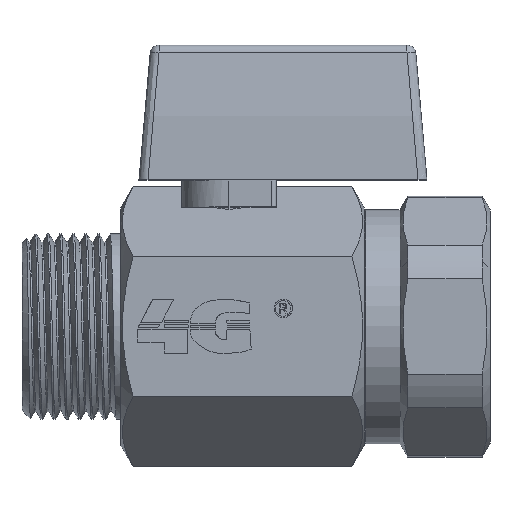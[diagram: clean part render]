
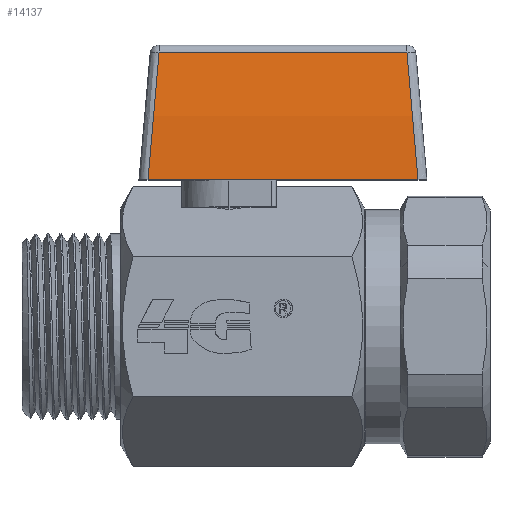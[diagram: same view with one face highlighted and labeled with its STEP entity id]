
A CAD part, top view. The second image highlights one B-rep face of the part: STEP entity #14137.
In plain terms, the highlighted cylindrical face has radius 80 mm (diameter 160 mm), a partial arc.
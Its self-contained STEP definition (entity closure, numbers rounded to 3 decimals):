
#11701=DIRECTION('',(-1.,0.,0.));
#11702=VECTOR('',#11701,29.992);
#11703=CARTESIAN_POINT('',(20.996,16.29,5.75));
#11704=LINE('',#11703,#11702);
#12472=CARTESIAN_POINT('',(-8.996,16.29,
5.75));
#12473=CARTESIAN_POINT('',(-8.894,17.478,
5.75));
#12474=CARTESIAN_POINT('',(-8.688,19.853,
5.697));
#12475=CARTESIAN_POINT('',(-8.381,23.409,
5.459));
#12476=CARTESIAN_POINT('',(-8.075,26.951,
5.063));
#12477=CARTESIAN_POINT('',(-7.872,29.298,
4.694));
#12478=CARTESIAN_POINT('',(-7.771,30.467,
4.484));
#12604=CARTESIAN_POINT('',(20.996,16.29,5.75));
#12605=CARTESIAN_POINT('',(20.894,17.478,5.75));
#12606=CARTESIAN_POINT('',(20.688,19.853,5.697));
#12607=CARTESIAN_POINT('',(20.381,23.409,5.459));
#12608=CARTESIAN_POINT('',(20.075,26.951,5.063));
#12609=CARTESIAN_POINT('',(19.872,29.298,4.694));
#12610=CARTESIAN_POINT('',(19.771,30.467,4.484));
#12646=DIRECTION('',(-1.,0.,0.));
#12647=VECTOR('',#12646,27.543);
#12648=CARTESIAN_POINT('',(19.771,30.467,4.484));
#12649=LINE('',#12648,#12647);
#12843=VERTEX_POINT('',#12472);
#12844=VERTEX_POINT('',#12478);
#12849=CARTESIAN_POINT('',(19.771,30.467,4.484));
#12850=VERTEX_POINT('',#12849);
#12853=VERTEX_POINT('',#12604);
#14123=CARTESIAN_POINT('',(25.2,16.29,-74.25));
#14124=DIRECTION('',(-1.,0.,0.));
#14125=DIRECTION('',(0.,0.,-1.));
#14126=AXIS2_PLACEMENT_3D('',#14123,#14124,#14125);
#14127=CYLINDRICAL_SURFACE('',#14126,80.);
#14129=ORIENTED_EDGE('',*,*,#14128,.T.);
#14131=ORIENTED_EDGE('',*,*,#14130,.F.);
#14133=ORIENTED_EDGE('',*,*,#14132,.F.);
#14134=ORIENTED_EDGE('',*,*,#12960,.T.);
#14135=EDGE_LOOP('',(#14129,#14131,#14133,#14134));
#14136=FACE_OUTER_BOUND('',#14135,.F.);
#14137=ADVANCED_FACE('',(#14136),#14127,.T.);
#12479=B_SPLINE_CURVE_WITH_KNOTS('',3,(#12472,#12473,#12474,#12475,#12476,
#12477,#12478),.UNSPECIFIED.,.F.,.F.,(4,1,1,1,4),(0.,0.25,0.5,0.75,
1.),.UNSPECIFIED.);
#12611=B_SPLINE_CURVE_WITH_KNOTS('',3,(#12604,#12605,#12606,#12607,#12608,
#12609,#12610),.UNSPECIFIED.,.F.,.F.,(4,1,1,1,4),(0.,0.25,0.5,0.75,
1.),.UNSPECIFIED.);
#12960=EDGE_CURVE('',#12853,#12843,#11704,.T.);
#14128=EDGE_CURVE('',#12843,#12844,#12479,.T.);
#14130=EDGE_CURVE('',#12850,#12844,#12649,.T.);
#14132=EDGE_CURVE('',#12853,#12850,#12611,.T.);
